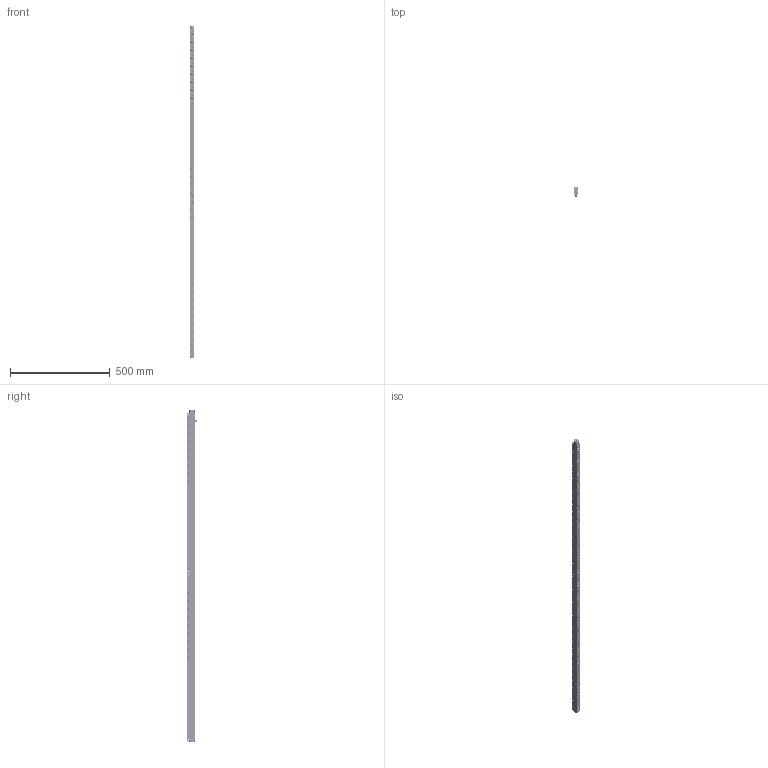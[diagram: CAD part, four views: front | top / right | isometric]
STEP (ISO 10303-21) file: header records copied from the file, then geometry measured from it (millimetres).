
FILE_DESCRIPTION(/* description */ ('EHR22-41'),/* implementation_level */ '2;1');
FILE_NAME(/* name */ 'S:\EASCN Vault\Designs\Standard Part\DIE LIFTERS\EHR\EHR- 3D step\EHR22 - 3D step complete serie\EHR22-41.stp',/* time_stamp */ '2019-10-29T13:14:51+08:00',/* author */ ('yue.yang'),/* organization */ (''),/* preprocessor_version */ 'ST-DEVELOPER v17',/* originating_system */ 'Autodesk Inventor 2019',/* authorisation */ '');
FILE_SCHEMA (('AUTOMOTIVE_DESIGN { 1 0 10303 214 3 1 1 }'));
Products named in the file (2): EHR22-41; EHR22-41_Substitute_1
Assembly tree (1 placements, depth 2):
  EHR22-41
    EHR22-41_Substitute_1
Bounding box: 21.8 x 48.05 x 1662 mm (x, y, z)
Volume: 1021407.8 mm3; surface area: 417635 mm2
Topology: 141 solids, 141 shells, 2261 faces, 6371 edges, 4427 vertices
Faces by surface type: cylinder 786, plane 534, cone 480, torus 377, sphere 84
Full cylindrical faces by diameter (mm): 2.459 x16, 3 x9, 3.2 x8, 4 x20, 5 x123, 6 x51, 7.5 x2, 8.566 x1, 10 x11, 11 x41, 12.5 x82, 13.4 x41, 13.8 x41, 15.95 x82, 16 x82
Entity records: 82674 total; most frequent: CARTESIAN_POINT 18436, DIRECTION 14358, ORIENTED_EDGE 12608, AXIS2_PLACEMENT_3D 6399, EDGE_CURVE 6304, VERTEX_POINT 4427, CIRCLE 4135, EDGE_LOOP 2671
